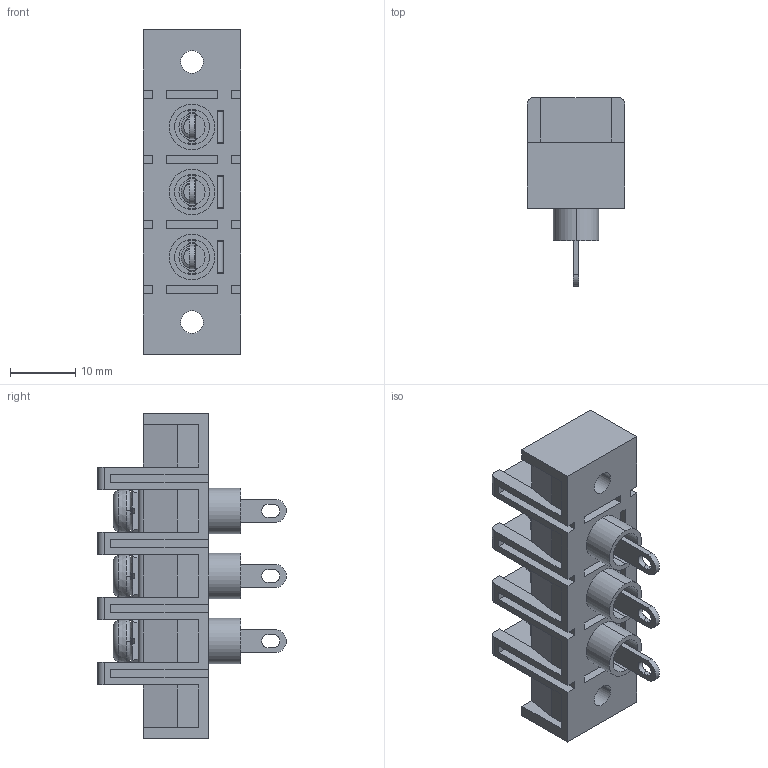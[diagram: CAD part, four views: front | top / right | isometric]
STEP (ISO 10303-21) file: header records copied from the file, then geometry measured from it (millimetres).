
FILE_DESCRIPTION((''),'2;1');
FILE_NAME('3PIN','2021-05-26T',('hanke'),(''),'CREO PARAMETRIC BY PTC INC, 2016260','CREO PARAMETRIC BY PTC INC, 2016260','');
FILE_SCHEMA(('CONFIG_CONTROL_DESIGN'));
Products named in the file (1): 3PIN
Bounding box: 15 x 29 x 50 mm (x, y, z)
Volume: 6176.4 mm3; surface area: 9574.1 mm2
Topology: 1 solids, 4 shells, 1182 faces, 3389 edges, 2208 vertices
Faces by surface type: plane 849, cylinder 168, bspline 135, torus 18, cone 12
Entity records: 58450 total; most frequent: CARTESIAN_POINT 29163, ORIENTED_EDGE 6766, DIRECTION 5087, EDGE_CURVE 3383, VERTEX_POINT 2208, VECTOR 2189, LINE 2189, AXIS2_PLACEMENT_3D 1449
